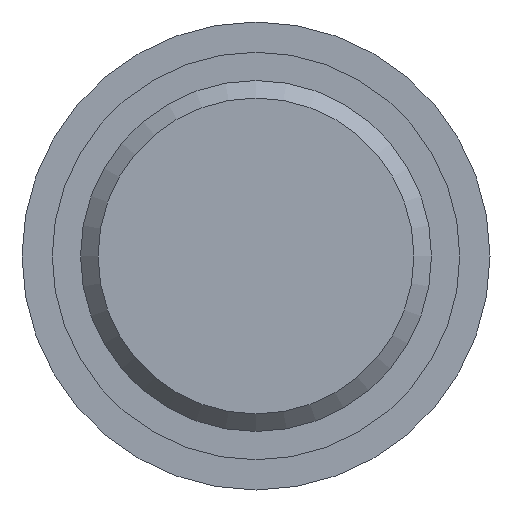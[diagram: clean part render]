
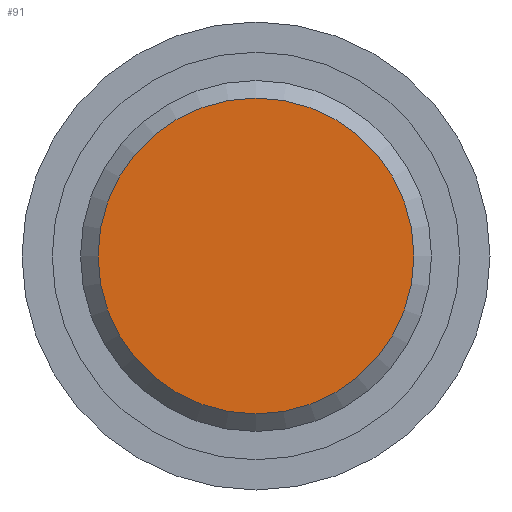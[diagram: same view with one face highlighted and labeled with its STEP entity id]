
A CAD part, front view. The second image highlights one B-rep face of the part: STEP entity #91.
In plain terms, the highlighted planar face has unit normal (0, -1, 0).
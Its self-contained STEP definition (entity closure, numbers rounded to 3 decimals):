
#91 = ADVANCED_FACE( '', ( #138 ), #139, .F. );
#138 = FACE_OUTER_BOUND( '', #193, .T. );
#139 = PLANE( '', #194 );
#193 = EDGE_LOOP( '', ( #308 ) );
#194 = AXIS2_PLACEMENT_3D( '', #309, #310, #311 );
#308 = ORIENTED_EDGE( '', *, *, #359, .T. );
#309 = CARTESIAN_POINT( '', ( 8.1, 0., 0. ) );
#310 = DIRECTION( '', ( 0., 1., 0. ) );
#311 = DIRECTION( '', ( 0., 0., 1. ) );
#359 = EDGE_CURVE( '', #411, #411, #412, .T. );
#411 = VERTEX_POINT( '', #485 );
#412 = CIRCLE( '', #486, 8.1 );
#485 = CARTESIAN_POINT( '', ( 0., 0., -8.1 ) );
#486 = AXIS2_PLACEMENT_3D( '', #538, #539, #540 );
#538 = CARTESIAN_POINT( '', ( 0., 0., 0. ) );
#539 = DIRECTION( '', ( 0., -1., 0. ) );
#540 = DIRECTION( '', ( 0., 0., -1. ) );
